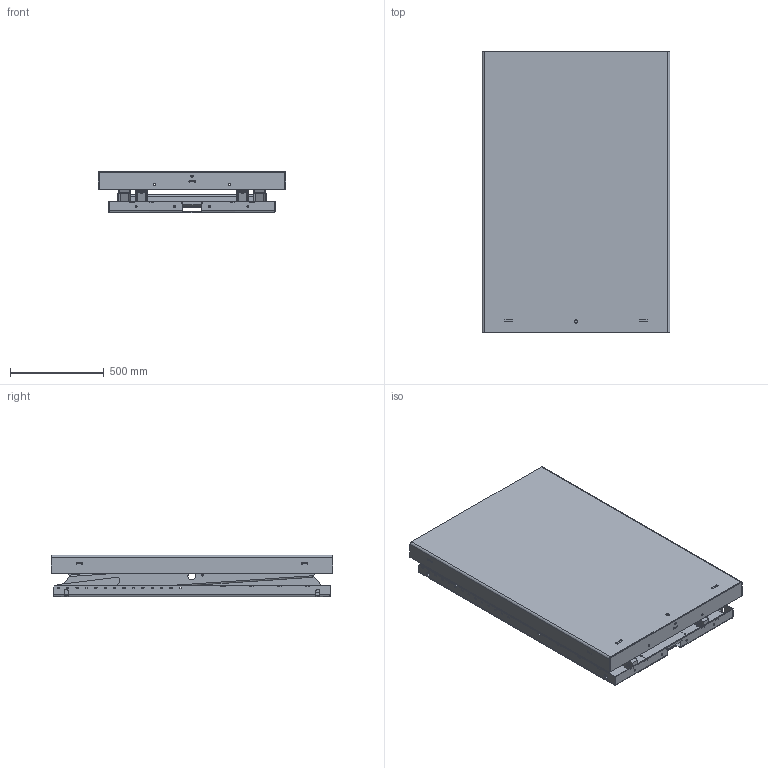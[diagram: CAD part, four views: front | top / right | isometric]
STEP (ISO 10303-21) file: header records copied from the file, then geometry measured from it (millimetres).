
FILE_DESCRIPTION(/* description */ ('Plåt'),/* implementation_level */ '2;1');
FILE_NAME(/* name */ '\\EDMOFILE01\Users$\JOHSO\Desktop\STP\22253_Botten.stp',/* time_stamp */ '2016-04-25T16:15:40+02:00',/* author */ ('JOHSO'),/* organization */ (''),/* preprocessor_version */ 'ST-DEVELOPER v15.6',/* originating_system */ 'Autodesk Inventor 2015',/* authorisation */ '');
FILE_SCHEMA (('AUTOMOTIVE_DESIGN { 1 0 10303 214 3 1 1 }'));
Length unit declared in the file: millimetre
Products named in the file (20): 36621-1; 45259; 44870; 36621; 82148-1310; 36613-2; Copy of ISO 4019 - 120x60x6 - 660; 36616; 82148-1310_1; 36613-1; 36615; 36617; 36619-1; 45387; 44608; 85955; 80131; 36619; 33048; 22253_TEMP
Assembly tree (35 placements, depth 5):
  22253_TEMP
    36621
      36621-1
      45259  x2
      44870  x2
    36617
      36616
        36613-2  x2
          82148-1310
        Copy of ISO 4019 - 120x60x6 - 660
      36615
        36613-1  x2
          82148-1310_1
    36619
      36619-1
      45259  x2
      45387  x6
      44608  x2
      85955
      80131  x4
    33048  x2
Bounding box: 1000 x 1500 x 220 mm (x, y, z)
Volume: 23933057.5 mm3; surface area: 9391528.3 mm2
Topology: 28 solids, 28 shells, 1142 faces, 3155 edges, 2065 vertices
Faces by surface type: plane 558, cylinder 516, cone 48, bspline 14, torus 6
Full cylindrical faces by diameter (mm): 5.55 x2, 6.5 x2, 6.8 x8, 7.4 x8, 8 x4, 10.5 x12, 11.63 x4, 12.5 x6, 13 x6, 13.835 x5, 14.2 x16, 18.8 x2, 19 x1, 23 x2, 28.1 x4, 40.2 x4, 60 x4
Entity records: 26230 total; most frequent: CARTESIAN_POINT 4899, DIRECTION 4462, ORIENTED_EDGE 4238, EDGE_CURVE 2119, AXIS2_PLACEMENT_3D 1584, VERTEX_POINT 1429, LINE 1294, VECTOR 1294
